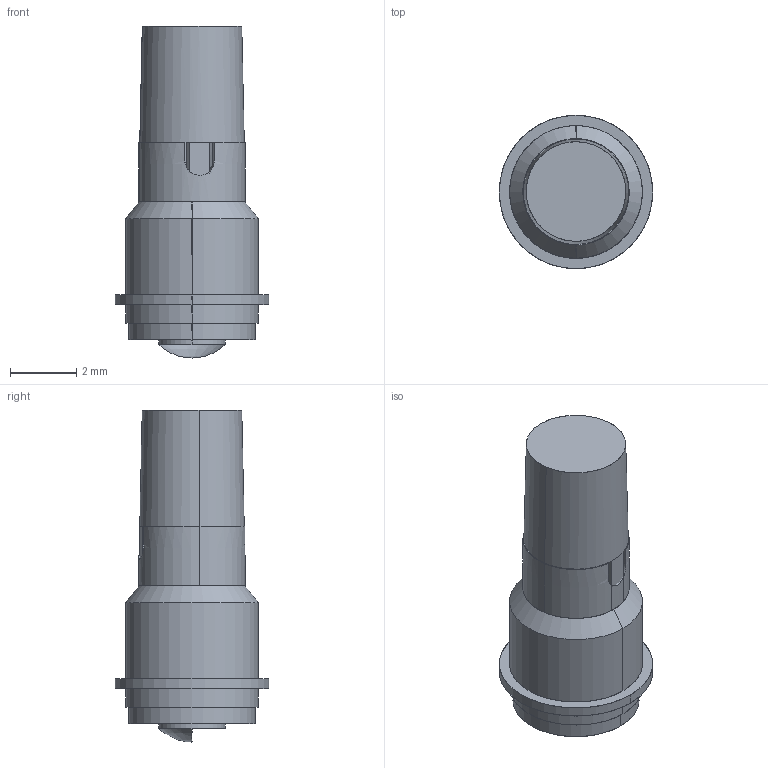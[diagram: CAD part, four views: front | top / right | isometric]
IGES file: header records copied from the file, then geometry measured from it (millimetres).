
Start section: SolidWorks IGES file using analytic representation for surfaces
Global section: file name: G:\Marl\DESIGN\Paul Robson\STEP-IGES FILES\202 Series\202 Series.IGS; native system: SolidWorks 2016; preprocessor: SolidWorks 2016; author: Paulr; date: 160803.090154; units: millimetre
Bounding box: 4.62 x 4.62 x 10 mm (x, y, z)
Surface area: 227.2 mm2 (no closed solid volume)
Topology: 0 solids, 0 shells, 57 faces, 872 edges, 871 vertices
Faces by surface type: bspline 29, revolution 28
